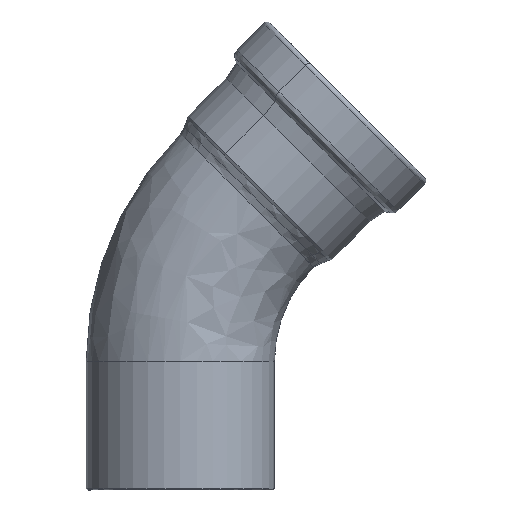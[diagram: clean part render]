
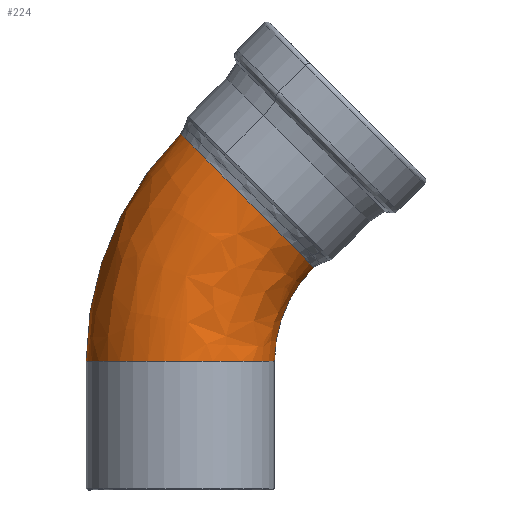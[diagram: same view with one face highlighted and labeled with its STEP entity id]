
A CAD part, front view. The second image highlights one B-rep face of the part: STEP entity #224.
In plain terms, the highlighted free-form (B-spline) face has degree [2, 2] with [5, 3] control points.
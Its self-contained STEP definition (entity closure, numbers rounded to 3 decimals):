
#224=ADVANCED_FACE('',(#551),#552,.T.);
#228=VERTEX_POINT('',#556);
#236=VERTEX_POINT('',#564);
#246=VERTEX_POINT('',#574);
#252=VERTEX_POINT('',#580);
#254=EDGE_CURVE('',#252,#246,#582,.T.);
#266=VERTEX_POINT('',#594);
#268=EDGE_CURVE('',#266,#228,#596,.T.);
#270=EDGE_CURVE('',#236,#266,#598,.T.);
#422=VERTEX_POINT('',#750);
#424=EDGE_CURVE('',#422,#236,#752,.T.);
#426=VERTEX_POINT('',#754);
#428=EDGE_CURVE('',#422,#426,#756,.T.);
#430=EDGE_CURVE('',#426,#246,#758,.T.);
#432=VERTEX_POINT('',#760);
#434=EDGE_CURVE('',#432,#252,#762,.T.);
#436=VERTEX_POINT('',#764);
#438=EDGE_CURVE('',#436,#432,#766,.T.);
#440=EDGE_CURVE('',#436,#228,#768,.T.);
#551=FACE_OUTER_BOUND('',#1355,.T.);
#552=(B_SPLINE_SURFACE(2,2,((#1357,#1358,#1359),(#1360,#1361,#1362),(#1363,#1364,#1365),(#1366,#1367,#1368),(#1369,#1370,#1371)),.UNSPECIFIED.,.F.,.F.,.F.)B_SPLINE_SURFACE_WITH_KNOTS((3,2,3),(3,3),(0.023,0.463,0.98),(0.0,0.976),.UNSPECIFIED.)RATIONAL_B_SPLINE_SURFACE(((0.838,0.674,0.638),(0.602,0.484,0.458),(1.0,0.805,0.762),(0.532,0.428,0.405),(0.94,0.756,0.716)))BOUNDED_SURFACE()REPRESENTATION_ITEM('')GEOMETRIC_REPRESENTATION_ITEM()SURFACE());
#556=CARTESIAN_POINT('',(38.05,0.,-37.9));
#564=CARTESIAN_POINT('',(-38.05,0.,-37.901));
#574=CARTESIAN_POINT('',(3.47,18.242,50.694));
#580=CARTESIAN_POINT('',(50.694,-18.242,3.47));
#582=CIRCLE('',#1425,38.05);
#594=CARTESIAN_POINT('',(0.,-38.05,-37.901));
#596=CIRCLE('',#1453,38.05);
#598=CIRCLE('',#1456,38.05);
#750=CARTESIAN_POINT('',(-0.035,0.,53.775));
#752=CIRCLE('',#1730,129.55);
#754=CARTESIAN_POINT('',(3.258,18.242,50.482));
#756=CIRCLE('',#1735,38.05);
#758=LINE('',#1738,#1739);
#760=CARTESIAN_POINT('',(50.482,-18.242,3.258));
#762=LINE('',#1744,#1745);
#764=CARTESIAN_POINT('',(53.775,0.,-0.035));
#766=CIRCLE('',#1750,38.05);
#768=CIRCLE('',#1753,53.45);
#1355=EDGE_LOOP('',(#1914,#1915,#1916,#1917,#1918,#1919,#1920,#1921,#1922));
#1357=CARTESIAN_POINT('',(-33.054,18.848,-37.901));
#1358=CARTESIAN_POINT('',(-33.054,18.848,14.517));
#1359=CARTESIAN_POINT('',(4.427,18.848,51.162));
#1360=CARTESIAN_POINT('',(-54.661,-19.045,-37.901));
#1361=CARTESIAN_POINT('',(-54.661,-19.045,23.611));
#1362=CARTESIAN_POINT('',(-10.677,-19.045,66.612));
#1363=CARTESIAN_POINT('',(-14.185,-35.307,-37.901));
#1364=CARTESIAN_POINT('',(-14.185,-35.307,6.577));
#1365=CARTESIAN_POINT('',(17.618,-35.307,37.669));
#1366=CARTESIAN_POINT('',(39.59,-56.912,-37.901));
#1367=CARTESIAN_POINT('',(39.59,-56.912,-16.054));
#1368=CARTESIAN_POINT('',(55.211,-56.912,-0.782));
#1369=CARTESIAN_POINT('',(38.036,1.02,-37.901));
#1370=CARTESIAN_POINT('',(38.036,1.02,-15.401));
#1371=CARTESIAN_POINT('',(54.125,1.02,0.329));
#1425=AXIS2_PLACEMENT_3D('',#1934,#1935,#1936);
#1453=AXIS2_PLACEMENT_3D('',#1946,#1947,#1948);
#1456=AXIS2_PLACEMENT_3D('',#1949,#1950,#1951);
#1730=AXIS2_PLACEMENT_3D('',#2049,#2050,#2051);
#1735=AXIS2_PLACEMENT_3D('',#2052,#2053,#2054);
#1738=CARTESIAN_POINT('',(3.258,18.242,50.482));
#1739=VECTOR('',#2055,1.0);
#1744=CARTESIAN_POINT('',(50.482,-18.242,3.258));
#1745=VECTOR('',#2056,1.0);
#1750=AXIS2_PLACEMENT_3D('',#2057,#2058,#2059);
#1753=AXIS2_PLACEMENT_3D('',#2060,#2061,#2062);
#1914=ORIENTED_EDGE('',*,*,#270,.T.);
#1915=ORIENTED_EDGE('',*,*,#268,.T.);
#1916=ORIENTED_EDGE('',*,*,#440,.F.);
#1917=ORIENTED_EDGE('',*,*,#438,.T.);
#1918=ORIENTED_EDGE('',*,*,#434,.T.);
#1919=ORIENTED_EDGE('',*,*,#254,.T.);
#1920=ORIENTED_EDGE('',*,*,#430,.F.);
#1921=ORIENTED_EDGE('',*,*,#428,.F.);
#1922=ORIENTED_EDGE('',*,*,#424,.T.);
#1934=CARTESIAN_POINT('',(27.082,0.,27.082));
#1935=DIRECTION('',(-0.707,0.,-0.707));
#1936=DIRECTION('',(0.621,-0.479,-0.621));
#1946=CARTESIAN_POINT('',(0.,0.,-37.901));
#1947=DIRECTION('',(0.,0.,1.));
#1948=DIRECTION('',(0.,-1.0,0.));
#1949=CARTESIAN_POINT('',(0.,0.,-37.901));
#1950=DIRECTION('',(0.,0.,1.0));
#1951=DIRECTION('',(-1.0,0.,0.));
#2049=CARTESIAN_POINT('',(91.5,0.,-37.901));
#2050=DIRECTION('',(0.,-1.0,0.));
#2051=DIRECTION('',(-0.707,0.,0.708));
#2052=CARTESIAN_POINT('',(26.87,0.,26.87));
#2053=DIRECTION('',(-0.707,0.,-0.707));
#2054=DIRECTION('',(-0.707,0.,0.707));
#2055=DIRECTION('',(0.707,0.,0.707));
#2056=DIRECTION('',(0.707,0.,0.707));
#2057=CARTESIAN_POINT('',(26.87,0.,26.87));
#2058=DIRECTION('',(-0.707,0.,-0.707));
#2059=DIRECTION('',(0.707,0.,-0.707));
#2060=CARTESIAN_POINT('',(91.5,0.,-37.901));
#2061=DIRECTION('',(0.,-1.0,0.));
#2062=DIRECTION('',(-0.706,0.,0.708));
